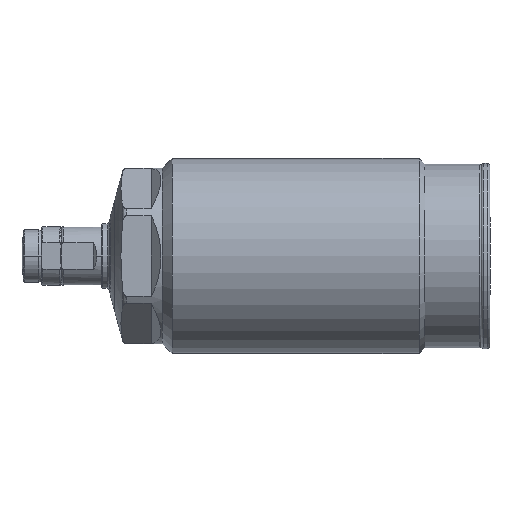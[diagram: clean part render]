
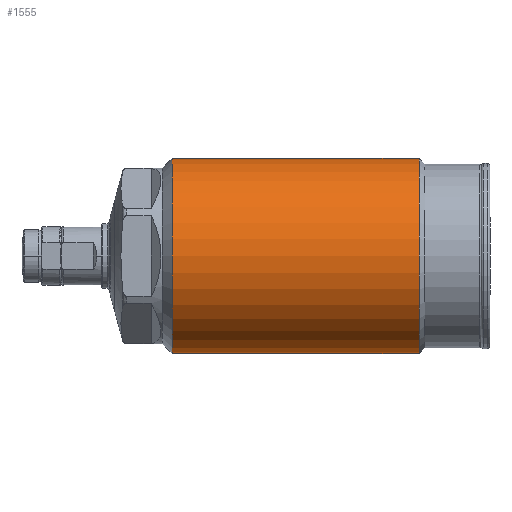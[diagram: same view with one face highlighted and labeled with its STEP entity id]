
A CAD part, left-side view. The second image highlights one B-rep face of the part: STEP entity #1555.
In plain terms, the highlighted cylindrical face has radius 15 mm (diameter 30 mm), a partial arc.
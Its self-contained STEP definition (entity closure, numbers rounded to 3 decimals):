
#1220=CYLINDRICAL_SURFACE('',#4111,15.);
#1297=LINE('',#5722,#1426);
#1298=LINE('',#5723,#1427);
#1426=VECTOR('',#4657,1.);
#1427=VECTOR('',#4658,1.);
#1555=ADVANCED_FACE('',(#1807),#1220,.T.);
#1807=FACE_OUTER_BOUND('',#1985,.T.);
#1985=EDGE_LOOP('',(#2316,#2317,#2318,#2319));
#2316=ORIENTED_EDGE('',*,*,#3411,.F.);
#2317=ORIENTED_EDGE('',*,*,#3437,.T.);
#2318=ORIENTED_EDGE('',*,*,#3412,.T.);
#2319=ORIENTED_EDGE('',*,*,#3438,.F.);
#3126=VERTEX_POINT('',#5714);
#3127=VERTEX_POINT('',#5716);
#3128=VERTEX_POINT('',#5720);
#3129=VERTEX_POINT('',#5721);
#3411=EDGE_CURVE('',#3129,#3127,#1297,.T.);
#3412=EDGE_CURVE('',#3128,#3126,#1298,.T.);
#3437=EDGE_CURVE('',#3129,#3128,#3825,.T.);
#3438=EDGE_CURVE('',#3127,#3126,#3826,.T.);
#3825=CIRCLE('',#4108,15.);
#3826=CIRCLE('',#4110,15.);
#4108=AXIS2_PLACEMENT_3D('',#5919,#4703,#4704);
#4110=AXIS2_PLACEMENT_3D('',#5921,#4707,#4708);
#4111=AXIS2_PLACEMENT_3D('',#5922,#4709,#4710);
#4657=DIRECTION('',(0.,1.,0.));
#4658=DIRECTION('',(0.,1.,0.));
#4703=DIRECTION('',(0.,1.,0.));
#4704=DIRECTION('',(0.,0.,1.));
#4707=DIRECTION('',(0.,1.,0.));
#4708=DIRECTION('',(0.,0.,1.));
#4709=DIRECTION('',(0.,1.,0.));
#4710=DIRECTION('',(0.,0.,1.));
#5714=CARTESIAN_POINT('',(0.,48.9,15.));
#5716=CARTESIAN_POINT('',(0.,48.9,-15.));
#5720=CARTESIAN_POINT('',(0.,10.9,15.));
#5721=CARTESIAN_POINT('',(0.,10.9,-15.));
#5722=CARTESIAN_POINT('',(0.,59.7,-15.));
#5723=CARTESIAN_POINT('',(0.,59.7,15.));
#5919=CARTESIAN_POINT('',(0.,10.9,0.));
#5921=CARTESIAN_POINT('',(0.,48.9,0.));
#5922=CARTESIAN_POINT('',(0.,59.7,0.));
